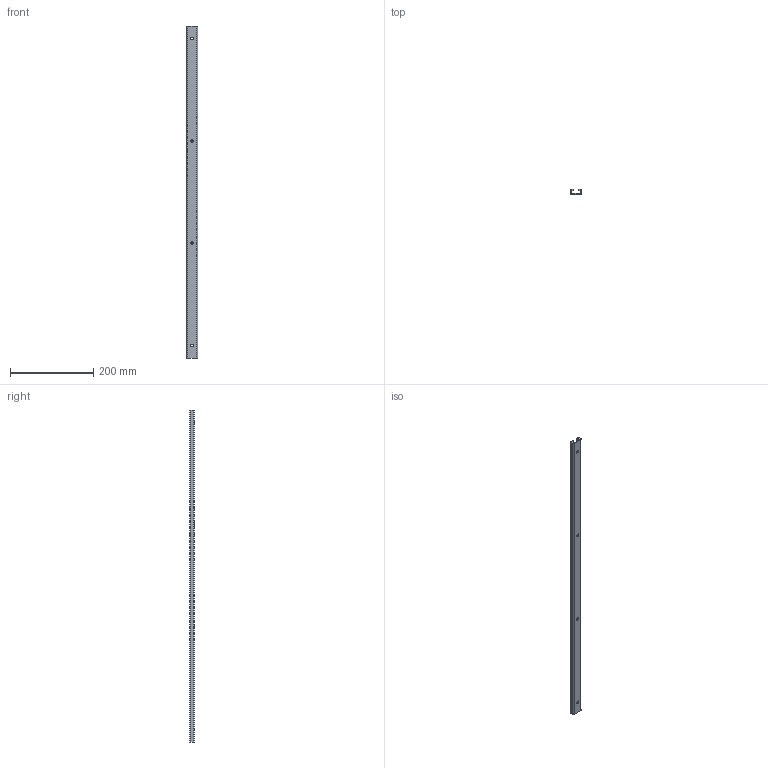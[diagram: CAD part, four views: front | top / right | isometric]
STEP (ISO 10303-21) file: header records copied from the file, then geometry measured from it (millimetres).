
FILE_DESCRIPTION (( 'STEP AP214' ), '1' );
FILE_NAME ('C-skena 800mm.STEP', '2014-04-10T14:31:16', ( '' ), ( '' ), 'SwSTEP 2.0', 'SolidWorks 2012', '' );
FILE_SCHEMA (( 'AUTOMOTIVE_DESIGN' ));
Length unit declared in the file: millimetre
Products named in the file (1): C-skena 800mm
Bounding box: 27 x 12 x 800 mm (x, y, z)
Volume: 86895.7 mm3; surface area: 90581.5 mm2
Topology: 1 solids, 1 shells, 30 faces, 84 edges, 56 vertices
Faces by surface type: plane 14, cone 8, cylinder 8
Entity records: 1272 total; most frequent: DIRECTION 178, CARTESIAN_POINT 171, ORIENTED_EDGE 168, EDGE_CURVE 84, AXIS2_PLACEMENT_3D 63, VERTEX_POINT 56, VECTOR 52, LINE 52
